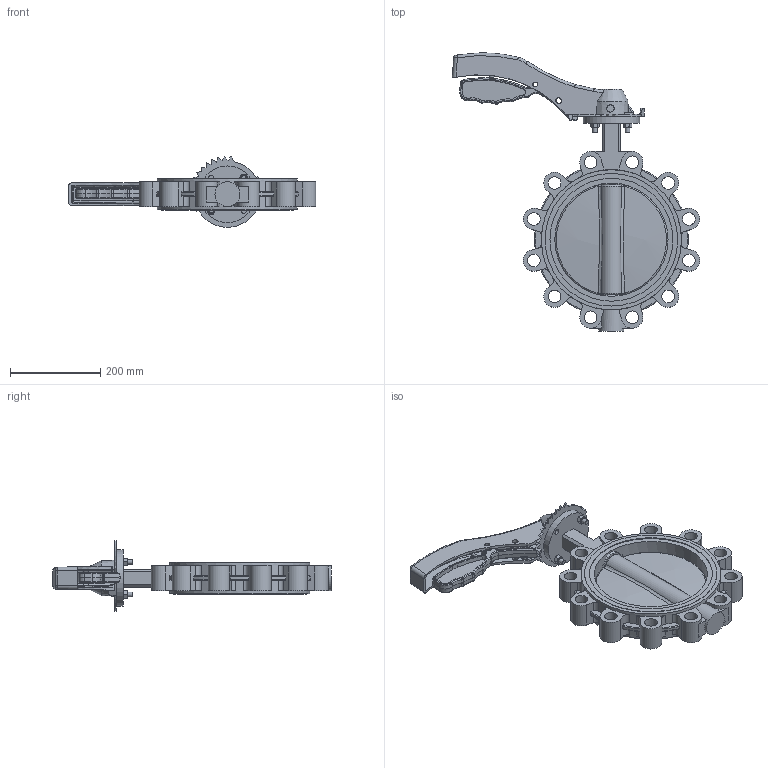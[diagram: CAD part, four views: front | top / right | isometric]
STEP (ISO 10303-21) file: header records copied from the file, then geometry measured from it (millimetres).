
FILE_DESCRIPTION (( 'STEP AP214' ), '1' );
FILE_NAME ('忒梟 等標評概Fig3240-250-16.STEP', '2026-03-20T07:36:28', ( '' ), ( '' ), 'SwSTEP 2.0', 'SolidWorks 2024', '' );
FILE_SCHEMA (( 'AUTOMOTIVE_DESIGN' ));
Length unit declared in the file: millimetre
Products named in the file (1): 手柄 单夹蝶阀Fig3240-250-16
Bounding box: 547.36 x 615.33 x 156.49 mm (x, y, z)
Volume: 4862868.3 mm3; surface area: 672690.1 mm2
Topology: 1 solids, 5 shells, 1284 faces, 3620 edges, 2386 vertices
Faces by surface type: plane 824, cylinder 214, bspline 144, cone 70, torus 28, sphere 4
Full cylindrical faces by diameter (mm): 10 x4, 10.2 x1, 10.71 x3, 12 x4, 12.648 x2, 14.362 x2, 16.32 x1, 17.8 x2, 28 x12, 28.7 x2, 39.984 x1, 40.8 x1, 55 x1, 125 x1, 250.4 x1, 271.9 x2, 293.4 x2, 310 x2
Entity records: 67880 total; most frequent: CARTESIAN_POINT 22739, ORIENTED_EDGE 7060, DIRECTION 5460, EDGE_CURVE 3530, VERTEX_POINT 2358, LINE 2226, VECTOR 2226, AXIS2_PLACEMENT_3D 1617
